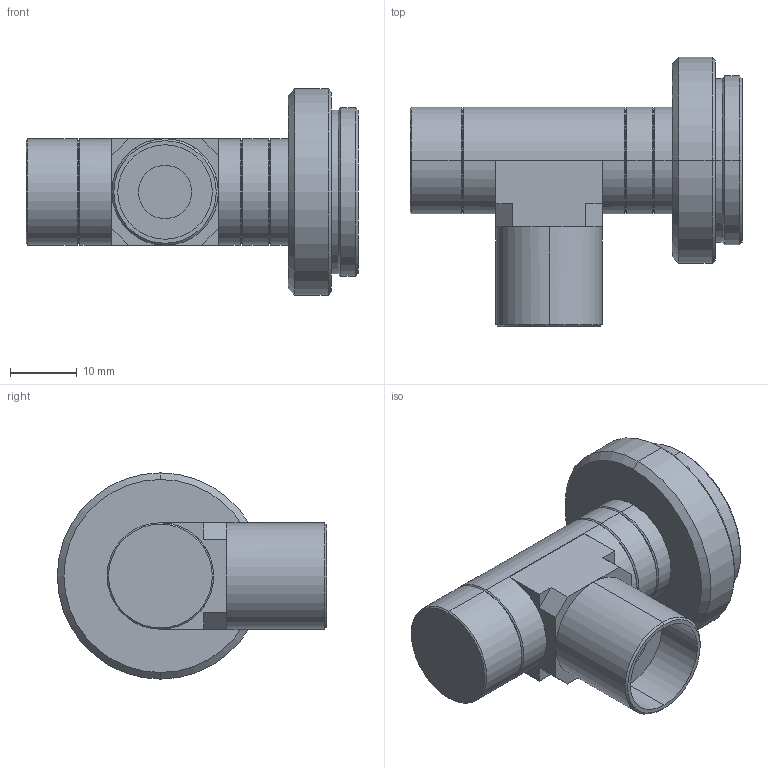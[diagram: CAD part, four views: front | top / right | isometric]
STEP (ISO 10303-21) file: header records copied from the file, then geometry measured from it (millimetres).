
FILE_DESCRIPTION (( 'STEP AP203' ), '1' );
FILE_NAME ('VS-TC4-40CO.STEP', '2018-06-27T05:46:09', ( '' ), ( '' ), 'SwSTEP 2.0', 'SolidWorks 2018', '' );
FILE_SCHEMA (( 'CONFIG_CONTROL_DESIGN' ));
Length unit declared in the file: millimetre
Products named in the file (1): VS-TC4-40CO
Bounding box: 49.9 x 40.5 x 31 mm (x, y, z)
Volume: 17101 mm3; surface area: 5935.7 mm2
Topology: 1 solids, 1 shells, 67 faces, 147 edges, 86 vertices
Faces by surface type: cone 24, plane 23, cylinder 20
Entity records: 1892 total; most frequent: DIRECTION 341, CARTESIAN_POINT 307, ORIENTED_EDGE 294, EDGE_CURVE 147, AXIS2_PLACEMENT_3D 128, VERTEX_POINT 86, LINE 85, VECTOR 85
